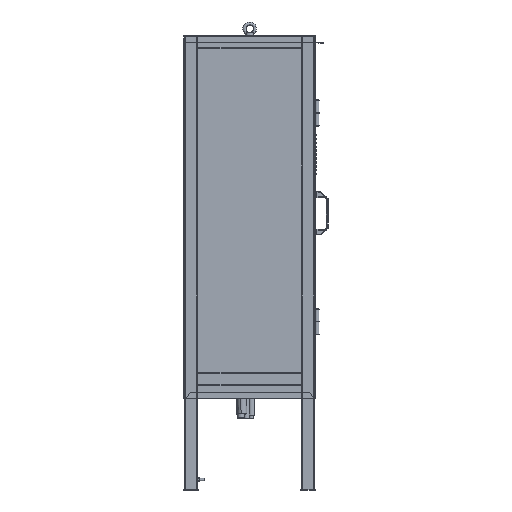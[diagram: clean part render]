
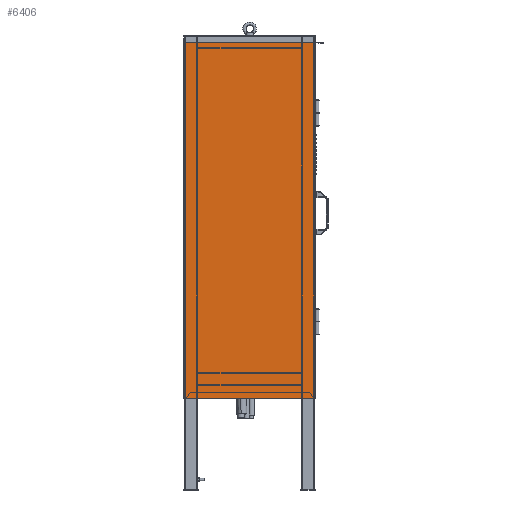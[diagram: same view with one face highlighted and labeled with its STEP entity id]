
A CAD part, left-side view. The second image highlights one B-rep face of the part: STEP entity #6406.
In plain terms, the highlighted planar face has unit normal (-1, 0, 0).
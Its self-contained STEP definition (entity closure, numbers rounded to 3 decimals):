
#6406=ADVANCED_FACE('',(#24735),#24737,.T.);
#24735=FACE_BOUND('',#24736,.T.);
#24736=EDGE_LOOP('',(#35656,#35657,#35658,#35659));
#24737=PLANE('',#24738);
#24738=AXIS2_PLACEMENT_3D('',#24739,#24740,#24741);
#24739=CARTESIAN_POINT('',(-675.8,224.,-676.5));
#24740=DIRECTION('',(-1.,0.,0.));
#24741=DIRECTION('',(0.,-1.,0.));
#35656=ORIENTED_EDGE('',*,*,#42059,.F.);
#35657=ORIENTED_EDGE('',*,*,#42058,.T.);
#35658=ORIENTED_EDGE('',*,*,#42110,.T.);
#35659=ORIENTED_EDGE('',*,*,#42065,.T.);
#42058=EDGE_CURVE('',#47074,#47162,#47164,.T.);
#42059=EDGE_CURVE('',#47074,#47081,#47165,.T.);
#42065=EDGE_CURVE('',#47173,#47081,#47174,.T.);
#42110=EDGE_CURVE('',#47162,#47173,#47241,.T.);
#47074=VERTEX_POINT('',#60227);
#47081=VERTEX_POINT('',#60242);
#47162=VERTEX_POINT('',#60445);
#47164=LINE('',#60450,#60451);
#47165=LINE('',#60453,#60454);
#47173=VERTEX_POINT('',#60473);
#47174=LINE('',#60474,#60475);
#47241=LINE('',#60640,#60641);
#60227=CARTESIAN_POINT('',(-675.8,473.5,-0.7));
#60242=CARTESIAN_POINT('',(-675.8,-26.,-0.7));
#60445=CARTESIAN_POINT('',(-675.8,473.5,-1373.5));
#60450=CARTESIAN_POINT('',(-675.8,473.5,-0.7));
#60451=VECTOR('',#60452,1.);
#60452=DIRECTION('',(0.,0.,-1.));
#60453=CARTESIAN_POINT('',(-675.8,473.5,-0.7));
#60454=VECTOR('',#60455,1.);
#60455=DIRECTION('',(0.,-1.,0.));
#60473=CARTESIAN_POINT('',(-675.8,-26.,-1373.5));
#60474=CARTESIAN_POINT('',(-675.8,-26.,-1373.5));
#60475=VECTOR('',#60476,1.);
#60476=DIRECTION('',(0.,0.,1.));
#60640=CARTESIAN_POINT('',(-675.8,473.5,-1373.5));
#60641=VECTOR('',#60642,1.);
#60642=DIRECTION('',(0.,-1.,0.));
